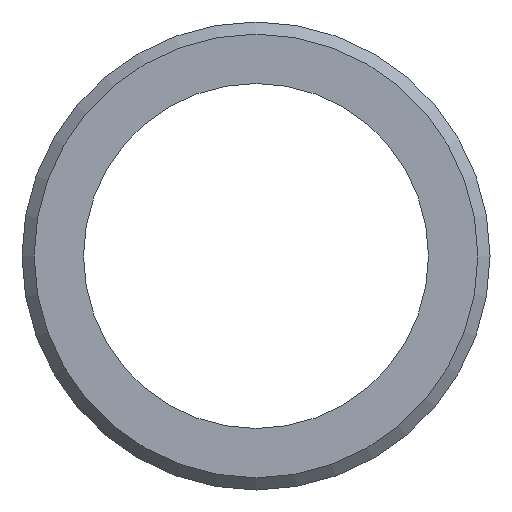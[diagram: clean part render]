
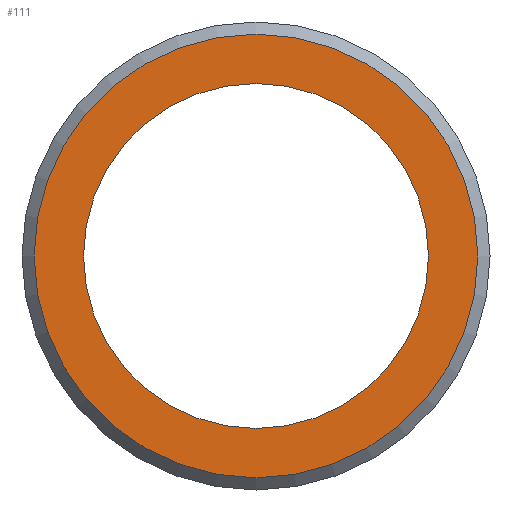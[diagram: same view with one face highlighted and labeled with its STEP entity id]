
A CAD part, front view. The second image highlights one B-rep face of the part: STEP entity #111.
In plain terms, the highlighted planar face has unit normal (0, -1, 0).
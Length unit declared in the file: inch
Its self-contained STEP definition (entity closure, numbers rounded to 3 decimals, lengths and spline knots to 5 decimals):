
#16=FACE_BOUND('',#33,.T.);
#18=PLANE('',#139);
#25=FACE_OUTER_BOUND('',#32,.T.);
#32=EDGE_LOOP('',(#96));
#33=EDGE_LOOP('',(#97,#98));
#50=CIRCLE('',#138,0.1755);
#51=CIRCLE('',#140,0.1365);
#52=CIRCLE('',#141,0.1365);
#60=VERTEX_POINT('',#202);
#61=VERTEX_POINT('',#206);
#62=VERTEX_POINT('',#207);
#72=EDGE_CURVE('',#60,#60,#50,.T.);
#74=EDGE_CURVE('',#61,#62,#51,.T.);
#75=EDGE_CURVE('',#62,#61,#52,.T.);
#96=ORIENTED_EDGE('',*,*,#72,.F.);
#97=ORIENTED_EDGE('',*,*,#74,.F.);
#98=ORIENTED_EDGE('',*,*,#75,.F.);
#111=ADVANCED_FACE('',(#25,#16),#18,.T.);
#138=AXIS2_PLACEMENT_3D('',#203,#169,#170);
#139=AXIS2_PLACEMENT_3D('',#205,#172,#173);
#140=AXIS2_PLACEMENT_3D('',#208,#174,#175);
#141=AXIS2_PLACEMENT_3D('',#209,#176,#177);
#169=DIRECTION('center_axis',(0.,1.,0.));
#170=DIRECTION('ref_axis',(0.,0.,1.));
#172=DIRECTION('center_axis',(0.,-1.,0.));
#173=DIRECTION('ref_axis',(0.,0.,-1.));
#174=DIRECTION('center_axis',(0.,-1.,0.));
#175=DIRECTION('ref_axis',(1.,0.,0.));
#176=DIRECTION('center_axis',(0.,-1.,0.));
#177=DIRECTION('ref_axis',(1.,0.,0.));
#202=CARTESIAN_POINT('',(0.,0.,-0.1755));
#203=CARTESIAN_POINT('Origin',(0.,0.,0.));
#205=CARTESIAN_POINT('Origin',(0.,0.,-0.1365));
#206=CARTESIAN_POINT('',(0.,0.,-0.1365));
#207=CARTESIAN_POINT('',(0.,0.,0.1365));
#208=CARTESIAN_POINT('Origin',(0.,0.,0.));
#209=CARTESIAN_POINT('Origin',(0.,0.,0.));
